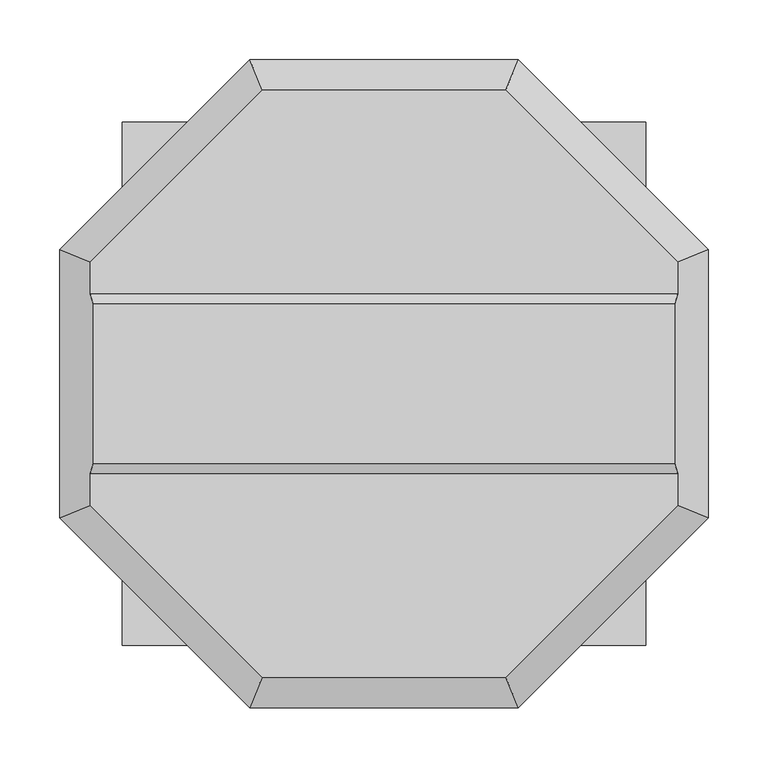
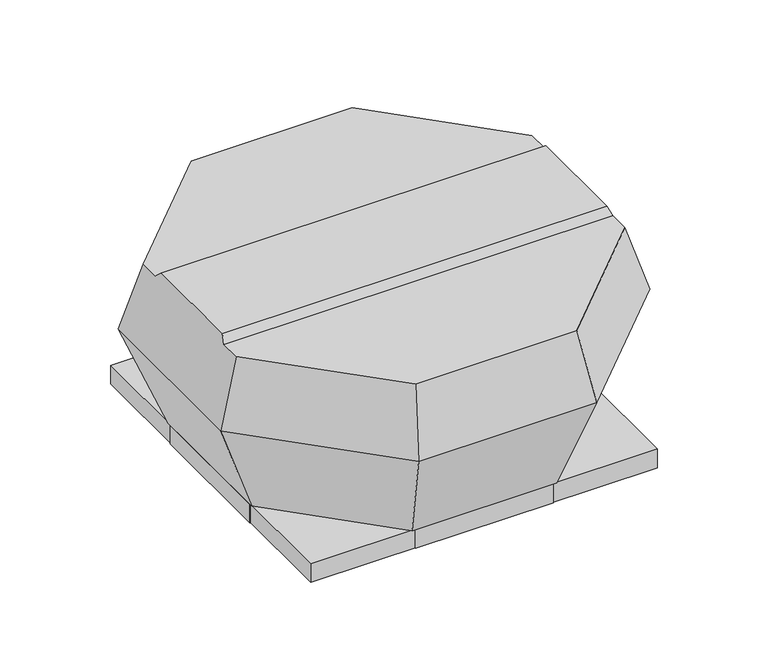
"""IFC4 building model written with IfcOpenShell, lengths in millimetres: unitary equipment geometry, VE-Wentylator-ParaForma-Harmann-VIVER_PT-Wywiewny : 2-280/1900PT."""

from ifc_helpers import new_model, si_unit, origin, place, context, project, spatial, faceted_brep, source, transform, mapped, element, save


def unitary_equipment_ad33cb6a(model_context):
    return source(origin(), model_context, "Body", "Brep", [
        faceted_brep([(242.7342463, -66.5, 224.7), (242.7342463, 66.5, 224.7), (-242.7342463, 66.5, 224.7), (-242.7342463, -66.5, 224.7), (245.2840979, 74.95, 216.2), (-245.2840979, 74.95, 216.2), (245.2840979, -74.95, 216.2), (-245.2840979, -74.95, 216.2), (101.6, -245.2840979, 216.2), (245.2840979, -101.6, 216.2), (-245.2840979, -101.6, 216.2), (-101.6, -245.2840979, 216.2), (245.2840979, 101.6, 216.2), (101.6, 245.2840979, 216.2), (-101.6, 245.2840979, 216.2), (-245.2840979, 101.6, 216.2), (112.05, -270.5126297, 132.1), (270.5126297, -112.05, 132.1), (270.5126297, 112.05, 132.1), (112.05, 270.5126297, 132.1), (-112.05, 270.5126297, 132.1), (-270.5126297, 112.05, 132.1), (-270.5126297, -112.05, 132.1), (-112.05, -270.5126297, 132.1), (90.95, -219.5727235, 1.0), (-90.95, -219.5727235, 1.0), (-219.5727235, -90.95, 1.0), (-219.5727235, 90.95, 1.0), (-90.95, 219.5727235, 1.0), (90.95, 219.5727235, 1.0), (219.5727235, 90.95, 1.0), (219.5727235, -90.95, 1.0)], [[[0, 1, 2, 3]], [[1, 4, 5, 2]], [[6, 0, 3, 7]], [[8, 9, 6, 7, 10, 11]], [[12, 13, 14, 15, 5, 4]], [[9, 8, 16, 17]], [[9, 17, 18, 12, 4, 1, 0, 6]], [[13, 12, 18, 19]], [[14, 13, 19, 20]], [[15, 14, 20, 21]], [[15, 21, 22, 10, 7, 3, 2, 5]], [[11, 10, 22, 23]], [[8, 11, 23, 16]], [[24, 25, 26, 27, 28, 29, 30, 31]], [[24, 31, 17, 16]], [[31, 30, 18, 17]], [[30, 29, 19, 18]], [[29, 28, 20, 19]], [[28, 27, 21, 20]], [[27, 26, 22, 21]], [[26, 25, 23, 22]], [[25, 24, 16, 23]]]),
        faceted_brep([(217.5, 217.5, -24.0), (217.5, 217.5, 0.0), (-217.5, 217.5, 0.0), (-217.5, 217.5, -24.0), (218.5, 218.5, 1.0), (218.5, 218.5, -24.0), (-218.5, 218.5, -24.0), (-218.5, 218.5, 1.0), (-217.5, -217.5, 0.0), (-217.5, -217.5, -24.0), (-218.5, -218.5, -24.0), (-218.5, -218.5, 1.0), (217.5, -217.5, 0.0), (217.5, -217.5, -24.0), (218.5, -218.5, -24.0), (218.5, -218.5, 1.0)], [[[0, 1, 2, 3]], [[4, 5, 6, 7]], [[3, 2, 8, 9]], [[7, 6, 10, 11]], [[9, 8, 12, 13]], [[11, 10, 14, 15]], [[13, 12, 1, 0]], [[5, 14, 10, 6], [3, 9, 13, 0]], [[15, 14, 5, 4]], [[7, 11, 15, 4]], [[1, 12, 8, 2]]]),
        faceted_brep([(-218.5, -87.0, -24.0), (-219.5, -87.0, -24.0), (-219.5, 87.0, -24.0), (-218.5, 87.0, -24.0), (-218.5, -87.0, 1.0), (-218.5, 87.0, 1.0), (-219.5, 87.0, 1.0), (-219.5, -87.0, 1.0)], [[[0, 1, 2, 3]], [[4, 5, 6, 7]], [[1, 0, 4, 7]], [[2, 1, 7, 6]], [[3, 2, 6, 5]], [[0, 3, 5, 4]]]),
        faceted_brep([(219.5, -87.0, -24.0), (218.5, -87.0, -24.0), (218.5, 87.0, -24.0), (219.5, 87.0, -24.0), (219.5, 87.0, 1.0), (218.5, 87.0, 1.0), (218.5, 5.0, 1.0), (218.5, -5.0, 1.0), (218.5, -87.0, 1.0), (219.5, -87.0, 1.0), (219.5, -5.0, 1.0), (219.5, 5.0, 1.0)], [[[0, 1, 2, 3]], [[4, 5, 6, 7, 8, 9, 10, 11]], [[1, 0, 9, 8]], [[2, 1, 8, 7, 6, 5]], [[3, 2, 5, 4]], [[0, 3, 4, 11, 10, 9]]]),
        faceted_brep([(87.0, 218.5, -24.0), (-87.0, 218.5, -24.0), (-87.0, 219.5, -24.0), (87.0, 219.5, -24.0), (87.0, 218.5, 1.0), (87.0, 219.5, 1.0), (-87.0, 219.5, 1.0), (-87.0, 218.5, 1.0)], [[[0, 1, 2, 3]], [[4, 5, 6, 7]], [[1, 0, 4, 7]], [[2, 1, 7, 6]], [[3, 2, 6, 5]], [[0, 3, 5, 4]]]),
        faceted_brep([(87.0, -219.5, -24.0), (-87.0, -219.5, -24.0), (-87.0, -218.5, -24.0), (87.0, -218.5, -24.0), (87.0, -219.5, 1.0), (87.0, -218.5, 1.0), (-87.0, -218.5, 1.0), (-87.0, -219.5, 1.0)], [[[0, 1, 2, 3]], [[4, 5, 6, 7]], [[1, 0, 4, 7]], [[2, 1, 7, 6]], [[3, 2, 6, 5]], [[0, 3, 5, 4]]]),
    ])


if __name__ == "__main__":
    model = new_model("IFC4")
    model_context = context("Model", 3, world=origin())
    ifc_project = project(units=[si_unit("LENGTHUNIT", "METRE", prefix="MILLI")], contexts=[model_context])
    site = spatial("IfcSite", under=ifc_project)
    building = spatial("IfcBuilding", under=site)
    placement = place(None, origin())
    unitary_equipment_shape = unitary_equipment_ad33cb6a(model_context)
    element("IfcUnitaryEquipment", 1, ObjectType="VE-Wentylator-ParaForma-Harmann-VIVER_PT-Wywiewny : 2-280/1900PT", at=placement, inside=building, context=model_context, shape_type="MappedRepresentation", body=[
        mapped(unitary_equipment_shape, transform((0.0, 0.0, 0.0), x_axis=(1.0, 0.0, 0.0), y_axis=(0.0, 1.0, 0.0), z_axis=(0.0, 0.0, 1.0))),
    ])
    save(model, "model.ifc")
